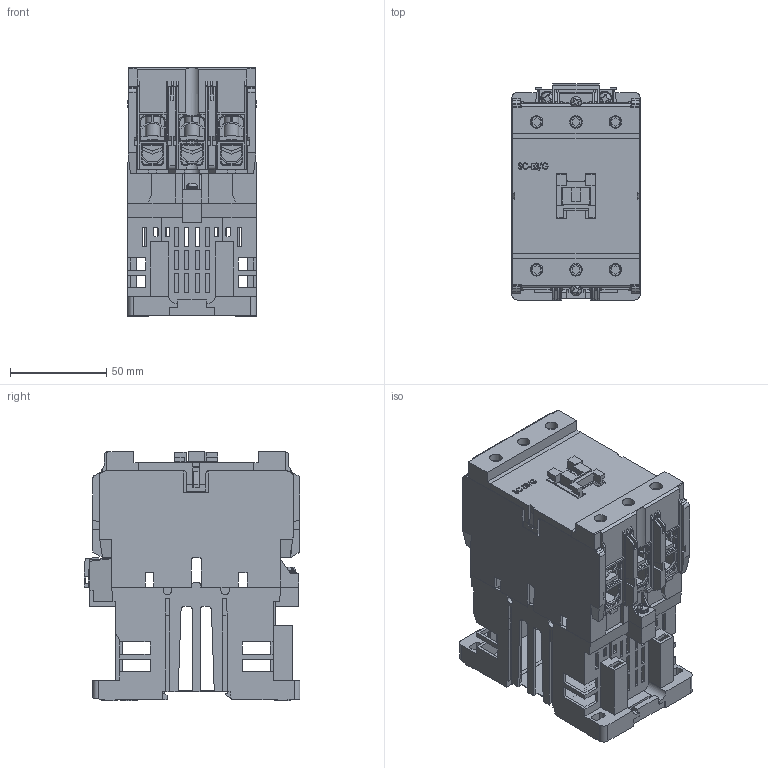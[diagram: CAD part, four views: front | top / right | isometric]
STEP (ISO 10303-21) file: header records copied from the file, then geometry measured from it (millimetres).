
FILE_DESCRIPTION (( 'STEP AP214' ), '1' );
FILE_NAME ('SC-E3G.STEP', '2016-01-19T08:41:25', ( '川崎工場' ), ( '富士電機株式会社' ), 'SwSTEP 2.0', 'SolidWorks 2015', '' );
FILE_SCHEMA (( 'AUTOMOTIVE_DESIGN' ));
Length unit declared in the file: millimetre
Products named in the file (19): Screw_M3_L17^SC-E3G; Washer_M3; Springwasher_M3; Screw_M3_L17; SC-E3G_Upper Case; SC-E3G_Coil_Terminal_Cover; SC-E3G_Hexagon socket screw keys_M4_asm; SC-E3G_Hexagon socket screw keys_M4; SC-E3G_Teminal plate; SC-E3G_Swith; SC-E3G_DIN rail contact portions; Screw_M3.5_L7; Springwasher_M3P5; Plate_M3P5_7P7; SC-E3G_Terminal_Cover; SC-E3G_Cover1; SC-E3G_Plate; SC-E3G_Lower Case; SC-E3G
Assembly tree (33 placements, depth 3):
  SC-E3G
    SC-E3G_Lower Case
    SC-E3G_Plate  x6
    SC-E3G_Cover1
    SC-E3G_Terminal_Cover  x2
    Plate_M3P5_7P7  x2
    Springwasher_M3P5  x2
    Screw_M3.5_L7  x2
    SC-E3G_DIN rail contact portions
    SC-E3G_Swith
    SC-E3G_Hexagon socket screw keys_M4_asm  x6
      SC-E3G_Teminal plate
      SC-E3G_Hexagon socket screw keys_M4
    SC-E3G_Coil_Terminal_Cover
    SC-E3G_Upper Case
    Screw_M3_L17^SC-E3G  x2
      Screw_M3_L17
      Springwasher_M3
      Washer_M3
Bounding box: 67 x 112.4 x 130 mm (x, y, z)
Volume: 245500.2 mm3; surface area: 202600.1 mm2
Topology: 38 solids, 38 shells, 3002 faces, 8713 edges, 5760 vertices
Faces by surface type: plane 2401, cylinder 496, cone 54, bspline 47, torus 4
Full cylindrical faces by diameter (mm): 3 x6, 3.2 x2, 3.5 x6, 4.5 x1, 6 x8, 6.5 x6, 6.8 x2, 7.7 x12, 8.5 x6, 9.3 x1, 9.7 x6
Entity records: 75501 total; most frequent: CARTESIAN_POINT 16265, ORIENTED_EDGE 12742, DIRECTION 11258, EDGE_CURVE 6371, LINE 5410, VECTOR 5410, VERTEX_POINT 4237, AXIS2_PLACEMENT_3D 2924
